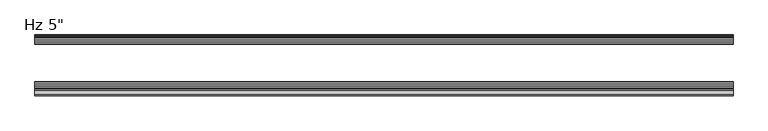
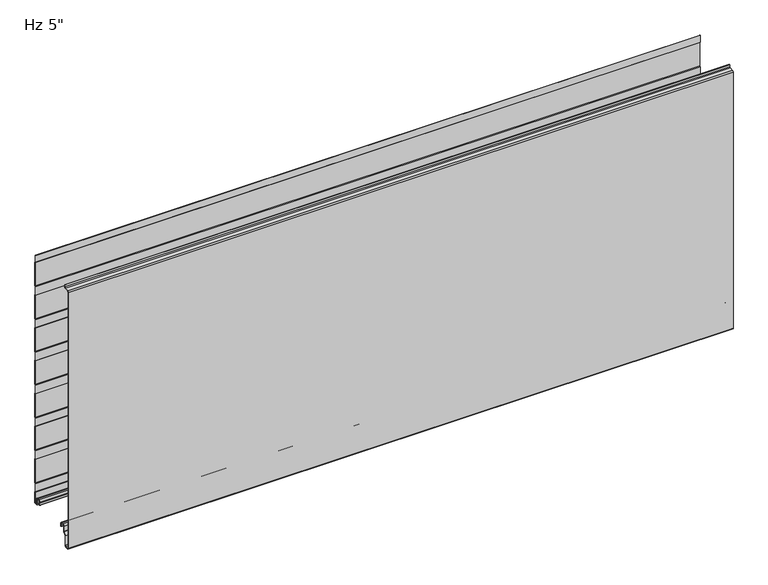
"""IFC4 building model written with IfcOpenShell, lengths in millimetres: plate geometry."""

from ifc_helpers import new_model, si_unit, point, frame, frame_2d, origin, place, context, project, spatial, polyline, circle_curve, trimmed, segment, composite_curve, outline, extrude, source, transform, mapped, element, save
from ifc_brep_helpers import plane_surface, cylinder_surface, revolved_surface, advanced_brep


def plate_4e9eae59(model_context):
    return source(origin(), model_context, "Body", "SolidModel", [
        advanced_brep(
        [(-730.0, -17.0015368, 2.0313088), (-730.0, -18.00154, 1.0313116), (-730.0, -19.0015313, 2.0313088), (-730.0, -19.0015314, 6.0315125), (-730.0, -18.0015368, 6.0315125), (-730.0, -18.0015368, 8.7237223), (-730.0, -14.7015411, 12.023718), (-730.0, -10.3015499, 12.023718), (-730.0, -7.0015544, 8.7237225), (-730.0, -7.0015544, -1.6962564), (-730.0, -5.2315602, -3.4662506), (-730.0, -1.0000126, -3.4662506), (-730.0, -1.0000126, 21.034026), (-730.0, -2.2002516, 22.4196686), (-730.0, -2.2002516, 41.7948349), (-730.0, -1.0000209, 43.1804679), (-730.0, -1.0000209, 97.2338833), (-730.0, -2.2002516, 98.6195162), (-730.0, -2.2002516, 117.9946825), (-730.0, -1.0000209, 119.3803155), (-730.0, -1.0000209, 173.4337309), (-730.0, -2.2002516, 174.8193638), (-730.0, -2.2002516, 194.1945301), (-730.0, -1.0000209, 195.5801631), (-730.0, -1.0000209, 249.6335785), (-730.0, -2.2002516, 251.0192114), (-730.0, -2.2002516, 270.3943777), (-730.0, -1.0000209, 271.7800107), (-730.0, -1.0000209, 325.8334261), (-730.0, -2.2002516, 327.219059), (-730.0, -2.2002516, 346.5942253), (-730.0, -1.0000209, 347.9798583), (-730.0, -1.0000209, 402.0332737), (-730.0, -2.2002516, 403.4189066), (-730.0, -2.2002516, 422.7940729), (-730.0, -1.0000209, 424.1797059), (-730.0, -1.0000209, 478.2331213), (-730.0, -2.2002516, 479.6187542), (-730.0, -2.2002516, 498.9939205), (-730.0, -1.0000209, 500.3795535), (-730.0, -1.0000209, 554.4329689), (-730.0, -2.2002516, 555.8186018), (-730.0, -2.2002516, 571.2), (-730.0, -1.2002516, 571.2), (-730.0, -1.2002516, 556.1914823), (-730.0, -0.3418094, 555.2004346), (-730.0, -2.09e-05, 554.2838177), (-730.0, -2.09e-05, 500.5287046), (-730.0, -0.3418094, 499.6120877), (-730.0, -1.2002516, 498.6210401), (-730.0, -1.2002516, 479.9916347), (-730.0, -0.3418094, 479.000587), (-730.0, -2.09e-05, 478.0839701), (-730.0, -2.09e-05, 424.328857), (-730.0, -0.3418094, 423.4122401), (-730.0, -1.2002516, 422.4211925), (-730.0, -1.2002516, 403.7917871), (-730.0, -0.3418094, 402.8007394), (-730.0, -2.09e-05, 401.8841225), (-730.0, -2.09e-05, 348.1290094), (-730.0, -0.3418094, 347.2123925), (-730.0, -1.2002516, 346.2213449), (-730.0, -1.2002516, 327.5919395), (-730.0, -0.3418094, 326.6008918), (-730.0, -2.09e-05, 325.6842749), (-730.0, -2.09e-05, 271.9291618), (-730.0, -0.3418094, 271.0125449), (-730.0, -1.2002516, 270.0214973), (-730.0, -1.2002516, 251.3920919), (-730.0, -0.3418094, 250.4010442), (-730.0, -2.09e-05, 249.4844273), (-730.0, -2.09e-05, 195.7293142), (-730.0, -0.3418094, 194.8126973), (-730.0, -1.2002516, 193.8216497), (-730.0, -1.2002516, 175.1922443), (-730.0, -0.3418094, 174.2011966), (-730.0, -2.09e-05, 173.2845797), (-730.0, -2.09e-05, 119.5294666), (-730.0, -0.3418094, 118.6128497), (-730.0, -1.2002516, 117.6218021), (-730.0, -1.2002516, 98.9923967), (-730.0, -0.3418094, 98.001349), (-730.0, -2.09e-05, 97.0847321), (-730.0, -2.09e-05, 43.329619), (-730.0, -0.3418094, 42.4130021), (-730.0, -1.2002516, 41.4219545), (-730.0, -1.2002516, 22.7925491), (-730.0, -0.3418094, 21.8015014), (-730.0, -2.09e-05, 20.8847931), (-730.0, -1.26e-05, -3.0662545), (-730.0, -1.4000087, -4.4662506), (-730.0, -5.2315602, -4.4662506), (-730.0, -8.0015544, -1.6962564), (-730.0, -8.0015544, 8.7237225), (-730.0, -10.3015499, 11.023718), (-730.0, -14.7015411, 11.023718), (-730.0, -17.0015368, 8.7237223), (730.0, -17.0015368, 2.0313088), (730.0, -17.0015368, 8.7237223), (730.0, -14.7015411, 11.023718), (730.0, -10.3015499, 11.023718), (730.0, -8.0015544, 8.7237225), (730.0, -8.0015544, -1.6962564), (730.0, -5.2315602, -4.4662506), (730.0, -1.4000087, -4.4662506), (730.0, -1.26e-05, -3.0662545), (730.0, -1.26e-05, 20.8848845), (730.0, -0.3418094, 21.8015014), (730.0, -1.2002516, 22.7925491), (730.0, -1.2002516, 41.4219545), (730.0, -0.3418094, 42.4130021), (730.0, -2.09e-05, 43.329619), (730.0, -2.09e-05, 97.0847321), (730.0, -0.3418094, 98.001349), (730.0, -1.2002516, 98.9923967), (730.0, -1.2002516, 117.6218021), (730.0, -0.3418094, 118.6128497), (730.0, -2.09e-05, 119.5294666), (730.0, -2.09e-05, 173.2845797), (730.0, -0.3418094, 174.2011966), (730.0, -1.2002516, 175.1922443), (730.0, -1.2002516, 193.8216497), (730.0, -0.3418094, 194.8126973), (730.0, -2.09e-05, 195.7293142), (730.0, -2.09e-05, 249.4844273), (730.0, -0.3418094, 250.4010442), (730.0, -1.2002516, 251.3920919), (730.0, -1.2002516, 270.0214973), (730.0, -0.3418094, 271.0125449), (730.0, -2.09e-05, 271.9291618), (730.0, -2.09e-05, 325.6842749), (730.0, -0.3418094, 326.6008918), (730.0, -1.2002516, 327.5919395), (730.0, -1.2002516, 346.2213449), (730.0, -0.3418094, 347.2123925), (730.0, -2.09e-05, 348.1290094), (730.0, -2.09e-05, 401.8841225), (730.0, -0.3418094, 402.8007394), (730.0, -1.2002516, 403.7917871), (730.0, -1.2002516, 422.4211925), (730.0, -0.3418094, 423.4122401), (730.0, -2.09e-05, 424.328857), (730.0, -2.09e-05, 478.0839701), (730.0, -0.3418094, 479.000587), (730.0, -1.2002516, 479.9916347), (730.0, -1.2002516, 498.6210401), (730.0, -0.3418094, 499.6120877), (730.0, -2.09e-05, 500.5287046), (730.0, -2.09e-05, 554.2838177), (730.0, -0.3418094, 555.2004346), (730.0, -1.2002516, 556.1914823), (730.0, -1.2002516, 571.2), (730.0, -2.2002516, 571.2), (730.0, -2.2002516, 555.8186018), (730.0, -1.0000209, 554.4329689), (730.0, -1.0000209, 500.3795535), (730.0, -2.2002516, 498.9939205), (730.0, -2.2002516, 479.6187542), (730.0, -1.0000209, 478.2331213), (730.0, -1.0000209, 424.1797059), (730.0, -2.2002516, 422.7940729), (730.0, -2.2002516, 403.4189066), (730.0, -1.0000209, 402.0332737), (730.0, -1.0000209, 347.9798583), (730.0, -2.2002516, 346.5942253), (730.0, -2.2002516, 327.219059), (730.0, -1.0000209, 325.8334261), (730.0, -1.0000209, 271.7800107), (730.0, -2.2002516, 270.3943777), (730.0, -2.2002516, 251.0192114), (730.0, -1.0000209, 249.6335785), (730.0, -1.0000209, 195.5801631), (730.0, -2.2002516, 194.1945301), (730.0, -2.2002516, 174.8193638), (730.0, -1.0000209, 173.4337309), (730.0, -1.0000209, 119.3803155), (730.0, -2.2002516, 117.9946825), (730.0, -2.2002516, 98.6195162), (730.0, -1.0000209, 97.2338833), (730.0, -1.0000209, 43.1804679), (730.0, -2.2002516, 41.7948349), (730.0, -2.2002516, 22.4196686), (730.0, -1.0000126, 21.034026), (730.0, -1.0000126, -3.4662506), (730.0, -5.2315602, -3.4662506), (730.0, -7.0015544, -1.6962564), (730.0, -7.0015544, 8.7237225), (730.0, -10.3015499, 12.023718), (730.0, -14.7015411, 12.023718), (730.0, -18.0015368, 8.7237223), (730.0, -18.0015368, 6.0315125), (730.0, -19.0015314, 6.0315125), (730.0, -19.0015314, 2.0313088), (730.0, -18.00154, 1.0313116)],
        [
            (0, 1, circle_curve(frame((-730.0, -18.0015341, 2.0313088), z_axis=(-1.0, 0.0, 0.0), x_axis=(0.0, 0.0, 1.0)), 0.9999973)),
            (1, 2, circle_curve(frame((-730.0, -18.0015341, 2.0313088), z_axis=(-1.0, 0.0, 0.0), x_axis=(0.0, 0.0, 1.0)), 0.9999972)),
            (2, 3),
            (3, 4),
            (4, 5),
            (5, 6, circle_curve(frame((-730.0, -14.7015411, 8.7237223), z_axis=(-1.0, 0.0, 0.0), x_axis=(0.0, 0.0, 1.0)), 3.2999957)),
            (6, 7),
            (7, 8, circle_curve(frame((-730.0, -10.3015499, 8.7237225), z_axis=(-1.0, 0.0, 0.0), x_axis=(0.0, 0.0, 1.0)), 3.2999955)),
            (8, 9),
            (9, 10, circle_curve(frame((-730.0, -5.2315602, -1.6962564), z_axis=(1.0, 0.0, 0.0), x_axis=(0.0, 0.0, 1.0)), 1.7699942)),
            (10, 11),
            (11, 12),
            (12, 13),
            (13, 14),
            (14, 15),
            (15, 16),
            (16, 17),
            (17, 18),
            (18, 19),
            (19, 20),
            (20, 21),
            (21, 22),
            (22, 23),
            (23, 24),
            (24, 25),
            (25, 26),
            (26, 27),
            (27, 28),
            (28, 29),
            (29, 30),
            (30, 31),
            (31, 32),
            (32, 33),
            (33, 34),
            (34, 35),
            (35, 36),
            (36, 37),
            (37, 38),
            (38, 39),
            (39, 40),
            (40, 41),
            (41, 42),
            (42, 43),
            (43, 44),
            (44, 45),
            (45, 46, circle_curve(frame((-730.0, -1.4000181, 554.2838177), z_axis=(-1.0, 0.0, 0.0), x_axis=(0.0, 0.0, 1.0)), 1.3999972)),
            (46, 47),
            (47, 48, circle_curve(frame((-730.0, -1.4000181, 500.5287046), z_axis=(-1.0, 0.0, 0.0), x_axis=(0.0, 0.0, 1.0)), 1.3999972)),
            (48, 49),
            (49, 50),
            (50, 51),
            (51, 52, circle_curve(frame((-730.0, -1.4000181, 478.0839701), z_axis=(-1.0, 0.0, 0.0), x_axis=(0.0, 0.0, 1.0)), 1.3999972)),
            (52, 53),
            (53, 54, circle_curve(frame((-730.0, -1.4000181, 424.328857), z_axis=(-1.0, 0.0, 0.0), x_axis=(0.0, 0.0, 1.0)), 1.3999972)),
            (54, 55),
            (55, 56),
            (56, 57),
            (57, 58, circle_curve(frame((-730.0, -1.4000181, 401.8841225), z_axis=(-1.0, 0.0, 0.0), x_axis=(0.0, 0.0, 1.0)), 1.3999972)),
            (58, 59),
            (59, 60, circle_curve(frame((-730.0, -1.4000181, 348.1290094), z_axis=(-1.0, 0.0, 0.0), x_axis=(0.0, 0.0, 1.0)), 1.3999972)),
            (60, 61),
            (61, 62),
            (62, 63),
            (63, 64, circle_curve(frame((-730.0, -1.4000181, 325.6842749), z_axis=(-1.0, 0.0, 0.0), x_axis=(0.0, 0.0, 1.0)), 1.3999972)),
            (64, 65),
            (65, 66, circle_curve(frame((-730.0, -1.4000181, 271.9291618), z_axis=(-1.0, 0.0, 0.0), x_axis=(0.0, 0.0, 1.0)), 1.3999972)),
            (66, 67),
            (67, 68),
            (68, 69),
            (69, 70, circle_curve(frame((-730.0, -1.4000181, 249.4844273), z_axis=(-1.0, 0.0, 0.0), x_axis=(0.0, 0.0, 1.0)), 1.3999972)),
            (70, 71),
            (71, 72, circle_curve(frame((-730.0, -1.4000181, 195.7293142), z_axis=(-1.0, 0.0, 0.0), x_axis=(0.0, 0.0, 1.0)), 1.3999972)),
            (72, 73),
            (73, 74),
            (74, 75),
            (75, 76, circle_curve(frame((-730.0, -1.4000181, 173.2845797), z_axis=(-1.0, 0.0, 0.0), x_axis=(0.0, 0.0, 1.0)), 1.3999972)),
            (76, 77),
            (77, 78, circle_curve(frame((-730.0, -1.4000181, 119.5294666), z_axis=(-1.0, 0.0, 0.0), x_axis=(0.0, 0.0, 1.0)), 1.3999972)),
            (78, 79),
            (79, 80),
            (80, 81),
            (81, 82, circle_curve(frame((-730.0, -1.4000181, 97.0847321), z_axis=(-1.0, 0.0, 0.0), x_axis=(0.0, 0.0, 1.0)), 1.3999972)),
            (82, 83),
            (83, 84, circle_curve(frame((-730.0, -1.4000181, 43.329619), z_axis=(-1.0, 0.0, 0.0), x_axis=(0.0, 0.0, 1.0)), 1.3999972)),
            (84, 85),
            (85, 86),
            (86, 87),
            (87, 88, circle_curve(frame((-730.0, -1.4000181, 20.8848845), z_axis=(-1.0, 0.0, 0.0), x_axis=(0.0, 0.0, 1.0)), 1.3999972)),
            (88, 89),
            (89, 90, circle_curve(frame((-730.0, -1.4000087, -3.0662545), z_axis=(-1.0, 0.0, 0.0), x_axis=(0.0, 0.0, 1.0)), 1.3999962)),
            (90, 91),
            (91, 92, circle_curve(frame((-730.0, -5.2315602, -1.6962564), z_axis=(-1.0, 0.0, 0.0), x_axis=(0.0, 0.0, 1.0)), 2.7699942)),
            (92, 93),
            (93, 94, circle_curve(frame((-730.0, -10.3015499, 8.7237225), z_axis=(1.0, 0.0, 0.0), x_axis=(0.0, 0.0, 1.0)), 2.2999955)),
            (94, 95),
            (95, 96, circle_curve(frame((-730.0, -14.7015411, 8.7237223), z_axis=(1.0, 0.0, 0.0), x_axis=(0.0, 0.0, 1.0)), 2.2999957)),
            (96, 0),
            (97, 98),
            (98, 99, circle_curve(frame((730.0, -14.7015411, 8.7237223), z_axis=(-1.0, 0.0, 0.0), x_axis=(0.0, 0.0, 1.0)), 2.2999957)),
            (99, 100),
            (100, 101, circle_curve(frame((730.0, -10.3015499, 8.7237225), z_axis=(-1.0, 0.0, 0.0), x_axis=(0.0, 0.0, 1.0)), 2.2999955)),
            (101, 102),
            (102, 103, circle_curve(frame((730.0, -5.2315602, -1.6962564), z_axis=(1.0, 0.0, 0.0), x_axis=(0.0, 0.0, 1.0)), 2.7699942)),
            (103, 104),
            (104, 105, circle_curve(frame((730.0, -1.4000087, -3.0662545), z_axis=(1.0, 0.0, 0.0), x_axis=(0.0, 0.0, 1.0)), 1.3999962)),
            (105, 106),
            (106, 107, circle_curve(frame((730.0, -1.4000181, 20.8848845), z_axis=(1.0, 0.0, 0.0), x_axis=(0.0, 0.0, 1.0)), 1.3999972)),
            (107, 108),
            (108, 109),
            (109, 110),
            (110, 111, circle_curve(frame((730.0, -1.4000181, 43.329619), z_axis=(1.0, 0.0, 0.0), x_axis=(0.0, 0.0, 1.0)), 1.3999972)),
            (111, 112),
            (112, 113, circle_curve(frame((730.0, -1.4000181, 97.0847321), z_axis=(1.0, 0.0, 0.0), x_axis=(0.0, 0.0, 1.0)), 1.3999972)),
            (113, 114),
            (114, 115),
            (115, 116),
            (116, 117, circle_curve(frame((730.0, -1.4000181, 119.5294666), z_axis=(1.0, 0.0, 0.0), x_axis=(0.0, 0.0, 1.0)), 1.3999972)),
            (117, 118),
            (118, 119, circle_curve(frame((730.0, -1.4000181, 173.2845797), z_axis=(1.0, 0.0, 0.0), x_axis=(0.0, 0.0, 1.0)), 1.3999972)),
            (119, 120),
            (120, 121),
            (121, 122),
            (122, 123, circle_curve(frame((730.0, -1.4000181, 195.7293142), z_axis=(1.0, 0.0, 0.0), x_axis=(0.0, 0.0, 1.0)), 1.3999972)),
            (123, 124),
            (124, 125, circle_curve(frame((730.0, -1.4000181, 249.4844273), z_axis=(1.0, 0.0, 0.0), x_axis=(0.0, 0.0, 1.0)), 1.3999972)),
            (125, 126),
            (126, 127),
            (127, 128),
            (128, 129, circle_curve(frame((730.0, -1.4000181, 271.9291618), z_axis=(1.0, 0.0, 0.0), x_axis=(0.0, 0.0, 1.0)), 1.3999972)),
            (129, 130),
            (130, 131, circle_curve(frame((730.0, -1.4000181, 325.6842749), z_axis=(1.0, 0.0, 0.0), x_axis=(0.0, 0.0, 1.0)), 1.3999972)),
            (131, 132),
            (132, 133),
            (133, 134),
            (134, 135, circle_curve(frame((730.0, -1.4000181, 348.1290094), z_axis=(1.0, 0.0, 0.0), x_axis=(0.0, 0.0, 1.0)), 1.3999972)),
            (135, 136),
            (136, 137, circle_curve(frame((730.0, -1.4000181, 401.8841225), z_axis=(1.0, 0.0, 0.0), x_axis=(0.0, 0.0, 1.0)), 1.3999972)),
            (137, 138),
            (138, 139),
            (139, 140),
            (140, 141, circle_curve(frame((730.0, -1.4000181, 424.328857), z_axis=(1.0, 0.0, 0.0), x_axis=(0.0, 0.0, 1.0)), 1.3999972)),
            (141, 142),
            (142, 143, circle_curve(frame((730.0, -1.4000181, 478.0839701), z_axis=(1.0, 0.0, 0.0), x_axis=(0.0, 0.0, 1.0)), 1.3999972)),
            (143, 144),
            (144, 145),
            (145, 146),
            (146, 147, circle_curve(frame((730.0, -1.4000181, 500.5287046), z_axis=(1.0, 0.0, 0.0), x_axis=(0.0, 0.0, 1.0)), 1.3999972)),
            (147, 148),
            (148, 149, circle_curve(frame((730.0, -1.4000181, 554.2838177), z_axis=(1.0, 0.0, 0.0), x_axis=(0.0, 0.0, 1.0)), 1.3999972)),
            (149, 150),
            (150, 151),
            (151, 152),
            (152, 153),
            (153, 154),
            (154, 155),
            (155, 156),
            (156, 157),
            (157, 158),
            (158, 159),
            (159, 160),
            (160, 161),
            (161, 162),
            (162, 163),
            (163, 164),
            (164, 165),
            (165, 166),
            (166, 167),
            (167, 168),
            (168, 169),
            (169, 170),
            (170, 171),
            (171, 172),
            (172, 173),
            (173, 174),
            (174, 175),
            (175, 176),
            (176, 177),
            (177, 178),
            (178, 179),
            (179, 180),
            (180, 181),
            (181, 182),
            (182, 183),
            (183, 184),
            (184, 185, circle_curve(frame((730.0, -5.2315602, -1.6962564), z_axis=(-1.0, 0.0, 0.0), x_axis=(0.0, 0.0, 1.0)), 1.7699942)),
            (185, 186),
            (186, 187, circle_curve(frame((730.0, -10.3015499, 8.7237225), z_axis=(1.0, 0.0, 0.0), x_axis=(0.0, 0.0, 1.0)), 3.2999955)),
            (187, 188),
            (188, 189, circle_curve(frame((730.0, -14.7015411, 8.7237223), z_axis=(1.0, 0.0, 0.0), x_axis=(0.0, 0.0, 1.0)), 3.2999957)),
            (189, 190),
            (190, 191),
            (191, 192),
            (192, 193, circle_curve(frame((730.0, -18.0015341, 2.0313088), z_axis=(1.0, 0.0, 0.0), x_axis=(0.0, 0.0, 1.0)), 0.9999972)),
            (193, 97, circle_curve(frame((730.0, -18.0015341, 2.0313088), z_axis=(1.0, 0.0, 0.0), x_axis=(0.0, 0.0, 1.0)), 0.9999973)),
            (96, 98),
            (97, 0),
            (95, 99),
            (94, 100),
            (93, 101),
            (92, 102),
            (91, 103),
            (90, 104),
            (89, 105),
            (88, 106),
            (70, 124),
            (123, 71),
            (87, 107),
            (86, 108),
            (85, 109),
            (83, 111),
            (110, 84),
            (81, 113),
            (112, 82),
            (66, 128),
            (127, 67),
            (122, 72),
            (121, 73),
            (76, 118),
            (117, 77),
            (69, 125),
            (68, 126),
            (65, 129),
            (116, 78),
            (79, 115),
            (114, 80),
            (75, 119),
            (74, 120),
            (2, 192),
            (191, 3),
            (1, 193),
            (64, 130),
            (63, 131),
            (62, 132),
            (61, 133),
            (60, 134),
            (59, 135),
            (58, 136),
            (31, 163),
            (162, 32),
            (30, 164),
            (29, 165),
            (28, 166),
            (27, 167),
            (26, 168),
            (25, 169),
            (24, 170),
            (23, 171),
            (22, 172),
            (21, 173),
            (20, 174),
            (19, 175),
            (18, 176),
            (17, 177),
            (16, 178),
            (15, 179),
            (14, 180),
            (13, 181),
            (12, 182),
            (11, 183),
            (10, 184),
            (9, 185),
            (8, 186),
            (7, 187),
            (6, 188),
            (5, 189),
            (4, 190),
            (42, 152),
            (151, 43),
            (57, 137),
            (56, 138),
            (55, 139),
            (54, 140),
            (53, 141),
            (52, 142),
            (51, 143),
            (50, 144),
            (49, 145),
            (48, 146),
            (47, 147),
            (46, 148),
            (45, 149),
            (44, 150),
            (41, 153),
            (40, 154),
            (39, 155),
            (38, 156),
            (37, 157),
            (36, 158),
            (35, 159),
            (34, 160),
            (33, 161),
        ],
        [
            plane_surface(frame((-730.0, -2.09e-05, 304.8), z_axis=(-1.0, 0.0, 0.0), x_axis=(0.0, 1.0, 0.0))),
            plane_surface(frame((730.0, -2.09e-05, 304.8), z_axis=(1.0, 0.0, 0.0), x_axis=(0.0, 1.0, 0.0))),
            plane_surface(frame((-730.0, -17.0015368, 2.0313088), z_axis=(0.0, 1.0, 0.0), x_axis=(1.0, 0.0, 0.0))),
            revolved_surface(polyline([(730.0, -14.7015411, 11.023718), (-730.0, -14.7015411, 11.023718)]), (-730.0, -14.7015411, 8.7237223), (1.0, 0.0, 0.0)),
            plane_surface(frame((-730.0, -14.7015411, 11.023718), z_axis=(0.0, 0.0, -1.0), x_axis=(1.0, 0.0, 0.0))),
            revolved_surface(polyline([(730.0, -10.3015499, 11.023717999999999), (-730.0, -10.3015499, 11.023717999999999)]), (-730.0, -10.3015499, 8.7237225), (1.0, 0.0, 0.0)),
            plane_surface(frame((-730.0, -8.0015544, 8.7237225), z_axis=(0.0, -1.0, 0.0), x_axis=(1.0, 0.0, 0.0))),
            cylinder_surface(frame((-730.0, -5.2315602, -1.6962564), z_axis=(-1.0, 0.0, 0.0), x_axis=(0.0, 0.0, 1.0)), 2.7699942),
            plane_surface(frame((-730.0, -5.2315602, -4.4662506), z_axis=(0.0, 0.0, -1.0), x_axis=(1.0, 0.0, 0.0))),
            cylinder_surface(frame((-730.0, -1.4000087, -3.0662545), z_axis=(-1.0, 0.0, 0.0), x_axis=(0.0, 0.0, 1.0)), 1.3999962),
            plane_surface(frame((-730.0, -1.26e-05, -3.0662545), z_axis=(0.0, 1.0, 0.0), x_axis=(1.0, 0.0, 0.0))),
            plane_surface(frame((-730.0, -2.09e-05, 195.7293142), z_axis=(0.0, 1.0, 0.0), x_axis=(1.0, 0.0, 0.0))),
            cylinder_surface(frame((-730.0, -1.4000181, 20.8848845), z_axis=(-1.0, 0.0, 0.0), x_axis=(0.0, 0.0, 1.0)), 1.3999972),
            plane_surface(frame((-730.0, -0.3418094, 21.8015014), z_axis=(0.0, 0.755864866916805, 0.6547276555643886), x_axis=(1.0, 0.0, 0.0))),
            plane_surface(frame((-730.0, -1.2002516, 32.1072518), z_axis=(0.0, 1.0, 0.0), x_axis=(1.0, 0.0, 0.0))),
            cylinder_surface(frame((-730.0, -1.4000181, 43.329619), z_axis=(-1.0, 0.0, 0.0), x_axis=(0.0, 0.0, 1.0)), 1.3999972),
            plane_surface(frame((-730.0, -1.2002516, 41.4219545), z_axis=(0.0, 0.755864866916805, -0.6547276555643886), x_axis=(1.0, 0.0, 0.0))),
            cylinder_surface(frame((-730.0, -1.4000181, 97.0847321), z_axis=(-1.0, 0.0, 0.0), x_axis=(0.0, 0.0, 1.0)), 1.3999972),
            plane_surface(frame((-730.0, -1.2002516, 270.0214973), z_axis=(0.0, 0.755864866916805, -0.6547276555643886), x_axis=(1.0, 0.0, 0.0))),
            cylinder_surface(frame((-730.0, -1.4000181, 195.7293142), z_axis=(-1.0, 0.0, 0.0), x_axis=(0.0, 0.0, 1.0)), 1.3999972),
            plane_surface(frame((-730.0, -1.2002516, 193.8216497), z_axis=(0.0, 0.755864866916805, -0.6547276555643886), x_axis=(1.0, 0.0, 0.0))),
            plane_surface(frame((-730.0, -2.09e-05, 119.5294666), z_axis=(0.0, 1.0, 0.0), x_axis=(1.0, 0.0, 0.0))),
            cylinder_surface(frame((-730.0, -1.4000181, 249.4844273), z_axis=(-1.0, 0.0, 0.0), x_axis=(0.0, 0.0, 1.0)), 1.3999972),
            plane_surface(frame((-730.0, -0.3418094, 250.4010442), z_axis=(0.0, 0.755864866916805, 0.6547276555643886), x_axis=(1.0, 0.0, 0.0))),
            plane_surface(frame((-730.0, -1.2002516, 260.7067946), z_axis=(0.0, 1.0, 0.0), x_axis=(1.0, 0.0, 0.0))),
            cylinder_surface(frame((-730.0, -1.4000181, 271.9291618), z_axis=(-1.0, 0.0, 0.0), x_axis=(0.0, 0.0, 1.0)), 1.3999972),
            cylinder_surface(frame((-730.0, -1.4000181, 119.5294666), z_axis=(-1.0, 0.0, 0.0), x_axis=(0.0, 0.0, 1.0)), 1.3999972),
            plane_surface(frame((-730.0, -1.2002516, 108.3070994), z_axis=(0.0, 1.0, 0.0), x_axis=(1.0, 0.0, 0.0))),
            plane_surface(frame((-730.0, -0.3418094, 98.001349), z_axis=(0.0, 0.755864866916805, 0.6547276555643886), x_axis=(1.0, 0.0, 0.0))),
            plane_surface(frame((-730.0, -1.2002516, 117.6218021), z_axis=(0.0, 0.755864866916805, -0.6547276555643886), x_axis=(1.0, 0.0, 0.0))),
            plane_surface(frame((-730.0, -2.09e-05, 43.329619), z_axis=(0.0, 1.0, 0.0), x_axis=(1.0, 0.0, 0.0))),
            cylinder_surface(frame((-730.0, -1.4000181, 173.2845797), z_axis=(-1.0, 0.0, 0.0), x_axis=(0.0, 0.0, 1.0)), 1.3999972),
            plane_surface(frame((-730.0, -0.3418094, 174.2011966), z_axis=(0.0, 0.755864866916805, 0.6547276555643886), x_axis=(1.0, 0.0, 0.0))),
            plane_surface(frame((-730.0, -1.2002516, 184.506947), z_axis=(0.0, 1.0, 0.0), x_axis=(1.0, 0.0, 0.0))),
            plane_surface(frame((-730.0, -19.0015314, 6.0315125), z_axis=(0.0, -1.0, 0.0), x_axis=(1.0, 0.0, 0.0))),
            cylinder_surface(frame((-730.0, -18.0015341, 2.0313088), z_axis=(-1.0, 0.0, 0.0), x_axis=(0.0, 0.0, 1.0)), 0.9999972),
            cylinder_surface(frame((-730.0, -18.0015341, 2.0313088), z_axis=(-1.0, 0.0, 0.0), x_axis=(0.0, 0.0, 1.0)), 0.9999973),
            plane_surface(frame((-730.0, -2.09e-05, 271.9291618), z_axis=(0.0, 1.0, 0.0), x_axis=(1.0, 0.0, 0.0))),
            cylinder_surface(frame((-730.0, -1.4000181, 325.6842749), z_axis=(-1.0, 0.0, 0.0), x_axis=(0.0, 0.0, 1.0)), 1.3999972),
            plane_surface(frame((-730.0, -0.3418094, 326.6008918), z_axis=(0.0, 0.755864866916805, 0.6547276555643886), x_axis=(1.0, 0.0, 0.0))),
            plane_surface(frame((-730.0, -1.2002516, 336.9066422), z_axis=(0.0, 1.0, 0.0), x_axis=(1.0, 0.0, 0.0))),
            plane_surface(frame((-730.0, -1.2002516, 346.2213449), z_axis=(0.0, 0.755864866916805, -0.6547276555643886), x_axis=(1.0, 0.0, 0.0))),
            cylinder_surface(frame((-730.0, -1.4000181, 348.1290094), z_axis=(-1.0, 0.0, 0.0), x_axis=(0.0, 0.0, 1.0)), 1.3999972),
            plane_surface(frame((-730.0, -2.09e-05, 348.1290094), z_axis=(0.0, 1.0, 0.0), x_axis=(1.0, 0.0, 0.0))),
            plane_surface(frame((-730.0, -1.0000209, 402.0332737), z_axis=(0.0, -1.0, 0.0), x_axis=(1.0, 0.0, 0.0))),
            plane_surface(frame((-730.0, -1.0000209, 347.9798583), z_axis=(0.0, -0.755864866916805, 0.6547276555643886), x_axis=(1.0, 0.0, 0.0))),
            plane_surface(frame((-730.0, -2.2002516, 346.5942253), z_axis=(0.0, -1.0, 0.0), x_axis=(1.0, 0.0, 0.0))),
            plane_surface(frame((-730.0, -2.2002516, 327.219059), z_axis=(0.0, -0.755864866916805, -0.6547276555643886), x_axis=(1.0, 0.0, 0.0))),
            plane_surface(frame((-730.0, -1.0000209, 325.8334261), z_axis=(0.0, -1.0, 0.0), x_axis=(1.0, 0.0, 0.0))),
            plane_surface(frame((-730.0, -1.0000209, 271.7800107), z_axis=(0.0, -0.755864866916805, 0.6547276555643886), x_axis=(1.0, 0.0, 0.0))),
            plane_surface(frame((-730.0, -2.2002516, 270.3943777), z_axis=(0.0, -1.0, 0.0), x_axis=(1.0, 0.0, 0.0))),
            plane_surface(frame((-730.0, -2.2002516, 251.0192114), z_axis=(0.0, -0.755864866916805, -0.6547276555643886), x_axis=(1.0, 0.0, 0.0))),
            plane_surface(frame((-730.0, -1.0000209, 249.6335785), z_axis=(0.0, -1.0, 0.0), x_axis=(1.0, 0.0, 0.0))),
            plane_surface(frame((-730.0, -1.0000209, 195.5801631), z_axis=(0.0, -0.755864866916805, 0.6547276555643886), x_axis=(1.0, 0.0, 0.0))),
            plane_surface(frame((-730.0, -2.2002516, 194.1945301), z_axis=(0.0, -1.0, 0.0), x_axis=(1.0, 0.0, 0.0))),
            plane_surface(frame((-730.0, -2.2002516, 174.8193638), z_axis=(0.0, -0.755864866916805, -0.6547276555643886), x_axis=(1.0, 0.0, 0.0))),
            plane_surface(frame((-730.0, -1.0000209, 173.4337309), z_axis=(0.0, -1.0, 0.0), x_axis=(1.0, 0.0, 0.0))),
            plane_surface(frame((-730.0, -1.0000209, 119.3803155), z_axis=(0.0, -0.755864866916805, 0.6547276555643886), x_axis=(1.0, 0.0, 0.0))),
            plane_surface(frame((-730.0, -2.2002516, 117.9946825), z_axis=(0.0, -1.0, 0.0), x_axis=(1.0, 0.0, 0.0))),
            plane_surface(frame((-730.0, -2.2002516, 98.6195162), z_axis=(0.0, -0.755864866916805, -0.6547276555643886), x_axis=(1.0, 0.0, 0.0))),
            plane_surface(frame((-730.0, -1.0000209, 97.2338833), z_axis=(0.0, -1.0, 0.0), x_axis=(1.0, 0.0, 0.0))),
            plane_surface(frame((-730.0, -1.0000209, 43.1804679), z_axis=(0.0, -0.755864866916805, 0.6547276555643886), x_axis=(1.0, 0.0, 0.0))),
            plane_surface(frame((-730.0, -2.2002516, 41.7948349), z_axis=(0.0, -1.0, 0.0), x_axis=(1.0, 0.0, 0.0))),
            plane_surface(frame((-730.0, -2.2002516, 22.4196686), z_axis=(0.0, -0.755864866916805, -0.6547276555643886), x_axis=(1.0, 0.0, 0.0))),
            plane_surface(frame((-730.0, -1.0000126, 21.034026), z_axis=(0.0, -1.0, 0.0), x_axis=(1.0, 0.0, 0.0))),
            plane_surface(frame((-730.0, -1.0000126, -3.4662506), z_axis=(0.0, 0.0, 1.0), x_axis=(1.0, 0.0, 0.0))),
            revolved_surface(polyline([(730.0, -5.2315602, 0.07373779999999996), (-730.0, -5.2315602, 0.07373779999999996)]), (-730.0, -5.2315602, -1.6962564), (1.0, 0.0, 0.0)),
            plane_surface(frame((-730.0, -7.0015544, -1.6962564), z_axis=(0.0, 1.0, 0.0), x_axis=(1.0, 0.0, 0.0))),
            cylinder_surface(frame((-730.0, -10.3015499, 8.7237225), z_axis=(-1.0, 0.0, 0.0), x_axis=(0.0, 0.0, 1.0)), 3.2999955),
            plane_surface(frame((-730.0, -10.3015499, 12.023718), z_axis=(0.0, 0.0, 1.0), x_axis=(1.0, 0.0, 0.0))),
            cylinder_surface(frame((-730.0, -14.7015411, 8.7237223), z_axis=(-1.0, 0.0, 0.0), x_axis=(0.0, 0.0, 1.0)), 3.2999957),
            plane_surface(frame((-730.0, -18.0015368, 8.7237223), z_axis=(0.0, -1.0, 0.0), x_axis=(1.0, 0.0, 0.0))),
            plane_surface(frame((-730.0, -18.0015368, 6.0315125), z_axis=(0.0, 0.0, 1.0), x_axis=(1.0, 0.0, 0.0))),
            plane_surface(frame((730.0, 9.9999791, 571.2), z_axis=(0.0, 0.0, 1.0), x_axis=(-1.0, 0.0, 0.0))),
            cylinder_surface(frame((-730.0, -1.4000181, 401.8841225), z_axis=(-1.0, 0.0, 0.0), x_axis=(0.0, 0.0, 1.0)), 1.3999972),
            plane_surface(frame((-730.0, -0.3418094, 402.8007394), z_axis=(0.0, 0.755864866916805, 0.6547276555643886), x_axis=(1.0, 0.0, 0.0))),
            plane_surface(frame((-730.0, -1.2002516, 413.1064898), z_axis=(0.0, 1.0, 0.0), x_axis=(1.0, 0.0, 0.0))),
            plane_surface(frame((-730.0, -1.2002516, 422.4211925), z_axis=(0.0, 0.755864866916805, -0.6547276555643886), x_axis=(1.0, 0.0, 0.0))),
            cylinder_surface(frame((-730.0, -1.4000181, 424.328857), z_axis=(-1.0, 0.0, 0.0), x_axis=(0.0, 0.0, 1.0)), 1.3999972),
            plane_surface(frame((-730.0, -2.09e-05, 424.328857), z_axis=(0.0, 1.0, 0.0), x_axis=(1.0, 0.0, 0.0))),
            cylinder_surface(frame((-730.0, -1.4000181, 478.0839701), z_axis=(-1.0, 0.0, 0.0), x_axis=(0.0, 0.0, 1.0)), 1.3999972),
            plane_surface(frame((-730.0, -0.3418094, 479.000587), z_axis=(0.0, 0.755864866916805, 0.6547276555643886), x_axis=(1.0, 0.0, 0.0))),
            plane_surface(frame((-730.0, -1.2002516, 489.3063374), z_axis=(0.0, 1.0, 0.0), x_axis=(1.0, 0.0, 0.0))),
            plane_surface(frame((-730.0, -1.2002516, 498.6210401), z_axis=(0.0, 0.755864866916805, -0.6547276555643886), x_axis=(1.0, 0.0, 0.0))),
            cylinder_surface(frame((-730.0, -1.4000181, 500.5287046), z_axis=(-1.0, 0.0, 0.0), x_axis=(0.0, 0.0, 1.0)), 1.3999972),
            plane_surface(frame((-730.0, -2.09e-05, 500.5287046), z_axis=(0.0, 1.0, 0.0), x_axis=(1.0, 0.0, 0.0))),
            cylinder_surface(frame((-730.0, -1.4000181, 554.2838177), z_axis=(-1.0, 0.0, 0.0), x_axis=(0.0, 0.0, 1.0)), 1.3999972),
            plane_surface(frame((-730.0, -0.3418094, 555.2004346), z_axis=(0.0, 0.755864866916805, 0.6547276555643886), x_axis=(1.0, 0.0, 0.0))),
            plane_surface(frame((-730.0, -1.2002516, 565.506185), z_axis=(0.0, 1.0, 0.0), x_axis=(1.0, 0.0, 0.0))),
            plane_surface(frame((-730.0, -2.2002516, 575.1937681), z_axis=(0.0, -1.0, 0.0), x_axis=(1.0, 0.0, 0.0))),
            plane_surface(frame((-730.0, -2.2002516, 555.8186018), z_axis=(0.0, -0.755864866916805, -0.6547276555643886), x_axis=(1.0, 0.0, 0.0))),
            plane_surface(frame((-730.0, -1.0000209, 554.4329689), z_axis=(0.0, -1.0, 0.0), x_axis=(1.0, 0.0, 0.0))),
            plane_surface(frame((-730.0, -1.0000209, 500.3795535), z_axis=(0.0, -0.755864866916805, 0.6547276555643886), x_axis=(1.0, 0.0, 0.0))),
            plane_surface(frame((-730.0, -2.2002516, 498.9939205), z_axis=(0.0, -1.0, 0.0), x_axis=(1.0, 0.0, 0.0))),
            plane_surface(frame((-730.0, -2.2002516, 479.6187542), z_axis=(0.0, -0.755864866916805, -0.6547276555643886), x_axis=(1.0, 0.0, 0.0))),
            plane_surface(frame((-730.0, -1.0000209, 478.2331213), z_axis=(0.0, -1.0, 0.0), x_axis=(1.0, 0.0, 0.0))),
            plane_surface(frame((-730.0, -1.0000209, 424.1797059), z_axis=(0.0, -0.755864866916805, 0.6547276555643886), x_axis=(1.0, 0.0, 0.0))),
            plane_surface(frame((-730.0, -2.2002516, 422.7940729), z_axis=(0.0, -1.0, 0.0), x_axis=(1.0, 0.0, 0.0))),
            plane_surface(frame((-730.0, -2.2002516, 403.4189066), z_axis=(0.0, -0.755864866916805, -0.6547276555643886), x_axis=(1.0, 0.0, 0.0))),
        ],
        [
            (0, [[1, 2, 3, 4, 5, 6, 7, 8, 9, 10, 11, 12, 13, 14, 15, 16, 17, 18, 19, 20, 21, 22, 23, 24, 25, 26, 27, 28, 29, 30, 31, 32, 33, 34, 35, 36, 37, 38, 39, 40, 41, 42, 43, 44, 45, 46, 47, 48, 49, 50, 51, 52, 53, 54, 55, 56, 57, 58, 59, 60, 61, 62, 63, 64, 65, 66, 67, 68, 69, 70, 71, 72, 73, 74, 75, 76, 77, 78, 79, 80, 81, 82, 83, 84, 85, 86, 87, 88, 89, 90, 91, 92, 93, 94, 95, 96, 97]]),
            (1, [[98, 99, 100, 101, 102, 103, 104, 105, 106, 107, 108, 109, 110, 111, 112, 113, 114, 115, 116, 117, 118, 119, 120, 121, 122, 123, 124, 125, 126, 127, 128, 129, 130, 131, 132, 133, 134, 135, 136, 137, 138, 139, 140, 141, 142, 143, 144, 145, 146, 147, 148, 149, 150, 151, 152, 153, 154, 155, 156, 157, 158, 159, 160, 161, 162, 163, 164, 165, 166, 167, 168, 169, 170, 171, 172, 173, 174, 175, 176, 177, 178, 179, 180, 181, 182, 183, 184, 185, 186, 187, 188, 189, 190, 191, 192, 193, 194]]),
            (2, [[195, -98, 196, -97]]),
            (3, [[197, -99, -195, -96]]),
            (4, [[198, -100, -197, -95]]),
            (5, [[199, -101, -198, -94]]),
            (6, [[200, -102, -199, -93]]),
            (7, [[201, -103, -200, -92]]),
            (8, [[202, -104, -201, -91]]),
            (9, [[203, -105, -202, -90]]),
            (10, [[204, -106, -203, -89]]),
            (11, [[205, -124, 206, -71]]),
            (12, [[207, -107, -204, -88]]),
            (13, [[208, -108, -207, -87]]),
            (14, [[209, -109, -208, -86]]),
            (15, [[210, -111, 211, -84]]),
            (16, [[-211, -110, -209, -85]]),
            (17, [[212, -113, 213, -82]]),
            (18, [[214, -128, 215, -67]]),
            (19, [[-206, -123, 216, -72]]),
            (20, [[-216, -122, 217, -73]]),
            (21, [[218, -118, 219, -77]]),
            (22, [[220, -125, -205, -70]]),
            (23, [[221, -126, -220, -69]]),
            (24, [[-215, -127, -221, -68]]),
            (25, [[222, -129, -214, -66]]),
            (26, [[-219, -117, 223, -78]]),
            (27, [[224, -115, 225, -80]]),
            (28, [[-225, -114, -212, -81]]),
            (29, [[-223, -116, -224, -79]]),
            (30, [[-213, -112, -210, -83]]),
            (31, [[226, -119, -218, -76]]),
            (32, [[227, -120, -226, -75]]),
            (33, [[-217, -121, -227, -74]]),
            (34, [[228, -192, 229, -3]]),
            (35, [[230, -193, -228, -2]]),
            (36, [[-196, -194, -230, -1]]),
            (37, [[231, -130, -222, -65]]),
            (38, [[232, -131, -231, -64]]),
            (39, [[233, -132, -232, -63]]),
            (40, [[234, -133, -233, -62]]),
            (41, [[235, -134, -234, -61]]),
            (42, [[236, -135, -235, -60]]),
            (43, [[237, -136, -236, -59]]),
            (44, [[238, -163, 239, -32]]),
            (45, [[240, -164, -238, -31]]),
            (46, [[241, -165, -240, -30]]),
            (47, [[242, -166, -241, -29]]),
            (48, [[243, -167, -242, -28]]),
            (49, [[244, -168, -243, -27]]),
            (50, [[245, -169, -244, -26]]),
            (51, [[246, -170, -245, -25]]),
            (52, [[247, -171, -246, -24]]),
            (53, [[248, -172, -247, -23]]),
            (54, [[249, -173, -248, -22]]),
            (55, [[250, -174, -249, -21]]),
            (56, [[251, -175, -250, -20]]),
            (57, [[252, -176, -251, -19]]),
            (58, [[253, -177, -252, -18]]),
            (59, [[254, -178, -253, -17]]),
            (60, [[255, -179, -254, -16]]),
            (61, [[256, -180, -255, -15]]),
            (62, [[257, -181, -256, -14]]),
            (63, [[258, -182, -257, -13]]),
            (64, [[259, -183, -258, -12]]),
            (65, [[260, -184, -259, -11]]),
            (66, [[261, -185, -260, -10]]),
            (67, [[262, -186, -261, -9]]),
            (68, [[263, -187, -262, -8]]),
            (69, [[264, -188, -263, -7]]),
            (70, [[265, -189, -264, -6]]),
            (71, [[266, -190, -265, -5]]),
            (72, [[-229, -191, -266, -4]]),
            (73, [[267, -152, 268, -43]]),
            (74, [[269, -137, -237, -58]]),
            (75, [[270, -138, -269, -57]]),
            (76, [[271, -139, -270, -56]]),
            (77, [[272, -140, -271, -55]]),
            (78, [[273, -141, -272, -54]]),
            (79, [[274, -142, -273, -53]]),
            (80, [[275, -143, -274, -52]]),
            (81, [[276, -144, -275, -51]]),
            (82, [[277, -145, -276, -50]]),
            (83, [[278, -146, -277, -49]]),
            (84, [[279, -147, -278, -48]]),
            (85, [[280, -148, -279, -47]]),
            (86, [[281, -149, -280, -46]]),
            (87, [[282, -150, -281, -45]]),
            (88, [[-44, -268, -151, -282]]),
            (89, [[-153, -267, -42, 283]]),
            (90, [[284, -154, -283, -41]]),
            (91, [[285, -155, -284, -40]]),
            (92, [[286, -156, -285, -39]]),
            (93, [[287, -157, -286, -38]]),
            (94, [[288, -158, -287, -37]]),
            (95, [[289, -159, -288, -36]]),
            (96, [[290, -160, -289, -35]]),
            (97, [[291, -161, -290, -34]]),
            (98, [[-239, -162, -291, -33]]),
        ],
    ),
        extrude(outline(composite_curve([segment(trimmed(circle_curve(frame_2d((-123.4296517, -32.4521063)), 3.5702393), [point((-123.1183813, -36.0087507))], [point((-126.999891, -32.452104))], False, "CARTESIAN"), True, "CONTINUOUS"), segment(polyline([(-126.999891, -32.452104), (-126.9995114, 561.1384265)]), True, "CONTINUOUS"), segment(trimmed(circle_curve(frame_2d((-124.0495173, 561.1384246)), 2.9499941), [point((-126.9995114, 561.1384265))], [point((-124.3066263, 564.0771931))], False, "CARTESIAN"), True, "CONTINUOUS"), segment(polyline([(-124.3066263, 564.0771931), (-115.8421999, 564.8177344)]), True, "CONTINUOUS"), segment(trimmed(circle_curve(frame_2d((-116.0191257, 566.8400056)), 2.0299959), [point((-115.8421999, 564.8177344))], [point((-113.9917398, 566.9429135))], True, "CARTESIAN"), True, "CONTINUOUS"), segment(polyline([(-113.9917398, 566.9429135), (-113.9917398, 571.2), (-112.9917398, 571.2), (-112.9917398, 566.9657441)]), True, "CONTINUOUS"), segment(trimmed(circle_curve(frame_2d((-116.0191257, 566.8400056)), 3.0299959), [point((-112.9917398, 566.9657441))], [point((-115.7550441, 563.8215397))], False, "CARTESIAN"), True, "CONTINUOUS"), segment(polyline([(-115.7550441, 563.8215397), (-124.2193406, 563.0810097)]), True, "CONTINUOUS"), segment(trimmed(circle_curve(frame_2d((-124.0493874, 561.1384359)), 1.9499941), [point((-124.2193406, 563.0810097))], [point((-125.9993815, 561.1384359))], True, "CARTESIAN"), True, "CONTINUOUS"), segment(polyline([(-125.9993815, 561.1384359), (-125.9993815, -32.509446)]), True, "CONTINUOUS"), segment(trimmed(circle_curve(frame_2d((-123.4297816, -32.4521176)), 2.5702393), [point((-125.9993815, -32.509446))], [point((-123.205696, -35.0125699))], True, "CARTESIAN"), True, "CONTINUOUS"), segment(polyline([(-123.205696, -35.0125699), (-118.2238751, -34.5765709)]), True, "CONTINUOUS"), segment(trimmed(circle_curve(frame_2d((-118.7052657, -31.9198392)), 2.6999926), [point((-118.2238751, -34.5765709))], [point((-116.0052731, -31.9198392))], True, "CARTESIAN"), True, "CONTINUOUS"), segment(polyline([(-116.0052731, -31.9198392), (-116.0052731, -9.8247096), (-110.503202, -4.3226385)]), True, "CONTINUOUS"), segment(trimmed(circle_curve(frame_2d((-111.7052797, -3.1205608)), 1.6999946), [point((-110.503202, -4.3226385))], [point((-110.0052851, -3.1205608))], True, "CARTESIAN"), True, "CONTINUOUS"), segment(polyline([(-110.0052851, -3.1205608), (-110.0052851, 8.6903283)]), True, "CONTINUOUS"), segment(trimmed(circle_curve(frame_2d((-106.6552898, 8.6903283)), 3.3499953), [point((-110.0052851, 8.6903283))], [point((-106.6552898, 12.0403236))], False, "CARTESIAN"), True, "CONTINUOUS"), segment(polyline([(-106.6552898, 12.0403236), (-102.2552986, 12.0403236)]), True, "CONTINUOUS"), segment(trimmed(circle_curve(frame_2d((-102.2552986, 8.6903283)), 3.3499953), [point((-102.2552986, 12.0403236))], [point((-98.9053033, 8.6903283))], False, "CARTESIAN"), True, "CONTINUOUS"), segment(polyline([(-98.9053033, 8.6903283), (-98.9053033, 5.9912173), (-97.5068244, 5.9912173), (-97.5068244, 2.2328239)]), True, "CONTINUOUS"), segment(trimmed(circle_curve(frame_2d((-98.7068211, 2.2313092)), 1.1999976), [point((-97.5068244, 2.2328239))], [point((-98.6762992, 1.0316999))], False, "CARTESIAN"), True, "CONTINUOUS"), segment(trimmed(circle_curve(frame_2d((-98.7068211, 2.2313092)), 1.1999976), [point((-98.6762992, 1.0316999))], [point((-99.9053033, 2.1710221))], False, "CARTESIAN"), True, "CONTINUOUS"), segment(polyline([(-99.9053033, 2.1710221), (-99.9053033, 8.6903283)]), True, "CONTINUOUS"), segment(trimmed(circle_curve(frame_2d((-102.2552986, 8.6903283)), 2.3499953), [point((-99.9053033, 8.6903283))], [point((-102.2552986, 11.0403236))], True, "CARTESIAN"), True, "CONTINUOUS"), segment(polyline([(-102.2552986, 11.0403236), (-106.6552898, 11.0403236)]), True, "CONTINUOUS"), segment(trimmed(circle_curve(frame_2d((-106.6552898, 8.6903283)), 2.3499953), [point((-106.6552898, 11.0403236))], [point((-109.0052851, 8.6903283))], True, "CARTESIAN"), True, "CONTINUOUS"), segment(polyline([(-109.0052851, 8.6903283), (-109.0052851, -3.1205608)]), True, "CONTINUOUS"), segment(trimmed(circle_curve(frame_2d((-111.7052797, -3.1205608)), 2.6999946), [point((-109.0052851, -3.1205608))], [point((-109.7960952, -5.0297453))], False, "CARTESIAN"), True, "CONTINUOUS"), segment(polyline([(-109.7960952, -5.0297453), (-114.6245127, -9.8581627)]), True, "CONTINUOUS"), segment(trimmed(circle_curve(frame_2d((-113.7052757, -10.7773997)), 1.2999974), [point((-114.6245127, -9.8581627))], [point((-115.0052731, -10.7773997))], True, "CARTESIAN"), True, "CONTINUOUS"), segment(polyline([(-115.0052731, -10.7773997), (-115.0052731, -31.9198392)]), True, "CONTINUOUS"), segment(trimmed(circle_curve(frame_2d((-118.7052657, -31.9198392)), 3.6999926), [point((-115.0052731, -31.9198392))], [point((-118.0944646, -35.5690675))], False, "CARTESIAN"), True, "CONTINUOUS"), segment(polyline([(-118.0944646, -35.5690675), (-123.1183813, -36.0087507)]), True, "CONTINUOUS")], self_intersect=False)), frame((-730.0, 0.0, 0.0), z_axis=(1.0, 0.0, 0.0), x_axis=(0.0, 1.0, 0.0)), (0.0, 0.0, 1.0), 1460.0),
    ])


if __name__ == "__main__":
    model = new_model("IFC4")
    model_context = context("Model", 3, world=origin())
    ifc_project = project(units=[si_unit("LENGTHUNIT", "METRE", prefix="MILLI")], contexts=[model_context])
    site = spatial("IfcSite", under=ifc_project)
    building = spatial("IfcBuilding", under=site)
    placement = place(None, origin())
    plate_shape = plate_4e9eae59(model_context)
    element("IfcPlate", 1, ObjectType="KIP-24-Karrier-KP-R19-CP-Hz-FL3-8in_SL : Hz 5\"", at=placement, inside=building, context=model_context, shape_type="MappedRepresentation", body=[
        mapped(plate_shape, transform((0.0, 0.0, 0.0), x_axis=(1.0, 0.0, 0.0), y_axis=(0.0, 1.0, 0.0), z_axis=(0.0, 0.0, 1.0))),
    ])
    save(model, "model.ifc")
